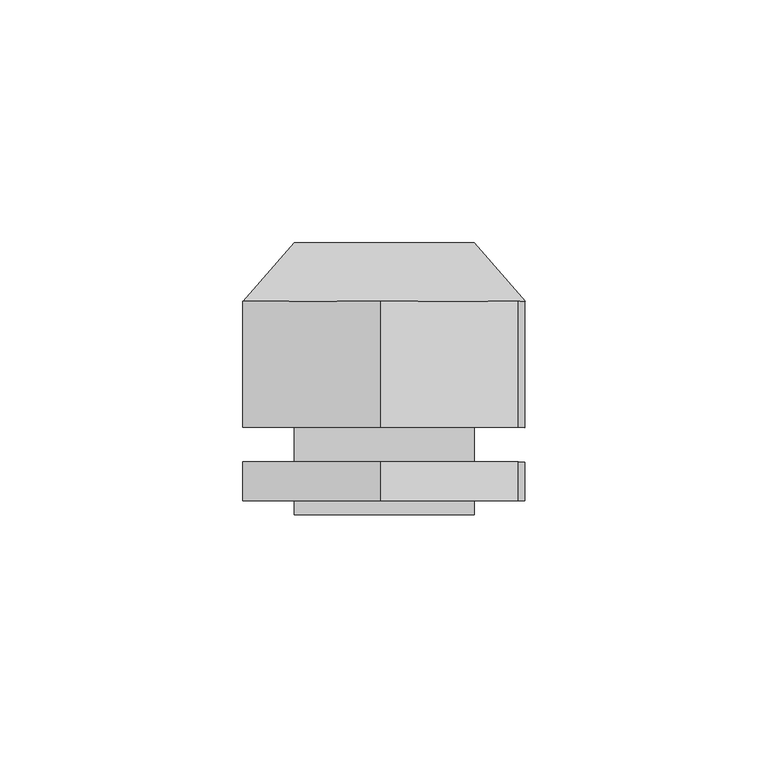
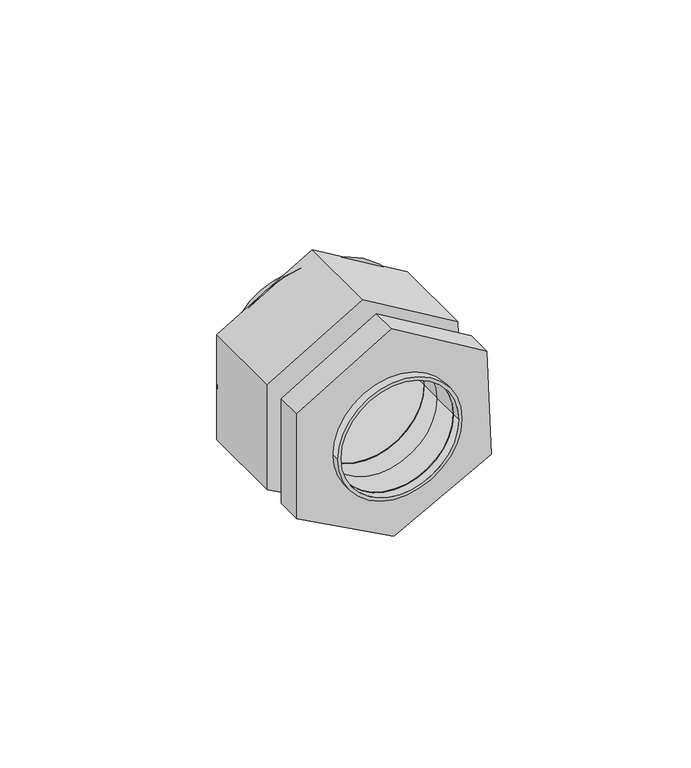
"""IFC4 building model written with IfcOpenShell, lengths in millimetres: cable carrier fitting geometry, Сальник_PGL_D_11-48_IP54 : Сальник PG 29 диаметр проводника 18-25мм IP54."""

from ifc_helpers import new_model, si_unit, point, frame, frame_2d, origin, place, context, project, spatial, polyline, circle_curve, trimmed, segment, composite_curve, outline, extrude, source, transform, mapped, element, save
from ifc_brep_helpers import plane_surface, revolved_surface, advanced_brep


def cable_carrier_fitting_a0507180(model_context):
    return source(origin(), model_context, "Body", "SolidModel", [
        advanced_brep(
        [(-17.4094864, 0.0, 0.0057257), (-17.4094864, -12.0, 0.0057257), (17.5905136, -12.0, 0.0057257), (17.5905136, 0.0, 0.0057257), (-28.9010286, -12.0, 0.0), (29.0989714, -12.0, 0.0), (-18.4010286, 0.0, 0.0), (18.5989714, 0.0, 0.0)],
        [
            (0, 1),
            (1, 2, circle_curve(frame((0.0905136, -12.0, 0.0057257), z_axis=(0.0, -1.0, 0.0), x_axis=(1.0, 0.0, 0.0)), 17.5)),
            (2, 3),
            (3, 0, circle_curve(frame((0.0905136, 0.0, 0.0057257), z_axis=(0.0, 1.0, 0.0), x_axis=(1.0, 0.0, 0.0)), 17.5)),
            (0, 3, circle_curve(frame((0.0905136, 0.0, 0.0057257), z_axis=(0.0, 1.0, 0.0), x_axis=(1.0, 0.0, 0.0)), 17.5)),
            (2, 1, circle_curve(frame((0.0905136, -12.0, 0.0057257), z_axis=(0.0, -1.0, 0.0), x_axis=(1.0, 0.0, 0.0)), 17.5)),
            (4, 5, circle_curve(frame((0.0989714, -12.0, 0.0), z_axis=(0.0, -1.0, 0.0), x_axis=(-1.0, 0.0, 0.0)), 29.0)),
            (5, 4, circle_curve(frame((0.0989714, -12.0, 0.0), z_axis=(0.0, -1.0, 0.0), x_axis=(1.0, 0.0, 0.0)), 29.0)),
            (6, 7, circle_curve(frame((0.0989714, 0.0, 0.0), z_axis=(0.0, 1.0, 0.0), x_axis=(1.0, 0.0, 0.0)), 18.5)),
            (7, 6, circle_curve(frame((0.0989714, 0.0, 0.0), z_axis=(0.0, 1.0, 0.0), x_axis=(-1.0, 0.0, 0.0)), 18.5)),
            (4, 6),
            (7, 5),
        ],
        [
            revolved_surface(polyline([(17.5905136, -12.0, 0.0057257), (17.5905136, 0.0, 0.0057257)]), (0.0905136, 9.180646, 0.0057257), (0.0, -1.0, 0.0)),
            plane_surface(frame((0.0989714, -12.0, 0.0), z_axis=(0.0, -1.0, 0.0), x_axis=(0.0, 0.0, -1.0))),
            plane_surface(frame((0.0989714, 0.0, 0.0), z_axis=(0.0, 1.0, 0.0), x_axis=(0.0, 0.0, -1.0))),
            revolved_surface(polyline([(18.598971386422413, 0.0, 0.0), (29.0989714, -12.0, 0.0)]), (0.0989714, 21.1428571, 0.0), (0.0, -1.0, 0.0)),
            revolved_surface(polyline([(-18.401028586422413, 0.0, 0.0), (-28.9010286, -12.0, 0.0)]), (0.0989714, 21.1428571, 0.0), (0.0, -1.0, 0.0)),
        ],
        [
            (0, [[1, 2, 3, 4]]),
            (0, [[-1, 5, -3, 6]]),
            (1, [[7, 8], [-2, -6]]),
            (2, [[9, 10], [-4, -5]]),
            (3, [[-7, 11, -10, 12]]),
            (4, [[-8, -12, -9, -11]]),
        ],
    ),
        extrude(outline(polyline([(-16.6959179, 29.0), (16.2791324, 27.7170125), (33.167475, -0.6340701), (16.3040821, -29.0), (-16.6959179, -29.0), (-32.4439336, 0.0), (-16.6959179, 29.0)]), holes=[composite_curve([segment(trimmed(circle_curve(frame_2d((0.0057257, 0.0905136)), 17.5), [point((0.0057257, 17.5905136))], [point((0.0057257, -17.4094864))], True, "CARTESIAN"), True, "CONTINUOUS"), segment(trimmed(circle_curve(frame_2d((0.0057257, 0.0905136)), 17.5), [point((0.0057257, -17.4094864))], [point((0.0057257, 17.5905136))], True, "CARTESIAN"), True, "CONTINUOUS")], self_intersect=False)]), frame((0.0, -38.0, 0.0), z_axis=(0.0, 1.0, 0.0), x_axis=(0.0, 0.0, 1.0)), (0.0, 0.0, 1.0), 26.0),
        extrude(outline(polyline([(-16.6959179, 29.0), (16.2791324, 27.7170125), (33.167475, -0.6340701), (16.3040821, -29.0), (-16.6959179, -29.0), (-32.4439336, 0.0), (-16.6959179, 29.0)]), holes=[composite_curve([segment(trimmed(circle_curve(frame_2d((0.0057257, 0.0905136)), 17.5), [point((0.0057257, 17.5905136))], [point((0.0057257, -17.4094864))], True, "CARTESIAN"), True, "CONTINUOUS"), segment(trimmed(circle_curve(frame_2d((0.0057257, 0.0905136)), 17.5), [point((0.0057257, -17.4094864))], [point((0.0057257, 17.5905136))], True, "CARTESIAN"), True, "CONTINUOUS")], self_intersect=False)]), frame((0.0, -53.1018563, 0.0), z_axis=(0.0, 1.0, 0.0), x_axis=(0.0, 0.0, 1.0)), (0.0, 0.0, 1.0), 8.0),
        extrude(outline(composite_curve([segment(trimmed(circle_curve(frame_2d((0.0032191, 0.0900025)), 18.5), [point((0.0032191, -18.4099975))], [point((0.0032191, 18.5900025))], False, "CARTESIAN"), True, "CONTINUOUS"), segment(trimmed(circle_curve(frame_2d((0.0032191, 0.0900025)), 18.5), [point((0.0032191, 18.5900025))], [point((0.0032191, -18.4099975))], False, "CARTESIAN"), True, "CONTINUOUS")], self_intersect=False), holes=[composite_curve([segment(trimmed(circle_curve(frame_2d((0.0057257, 0.0905136)), 17.5), [point((0.0057257, 17.5905136))], [point((0.0057257, -17.4094864))], True, "CARTESIAN"), True, "CONTINUOUS"), segment(trimmed(circle_curve(frame_2d((0.0057257, 0.0905136)), 17.5), [point((0.0057257, -17.4094864))], [point((0.0057257, 17.5905136))], True, "CARTESIAN"), True, "CONTINUOUS")], self_intersect=False)]), frame((0.0, -56.0, 0.0), z_axis=(0.0, 1.0, 0.0), x_axis=(0.0, 0.0, 1.0)), (0.0, 0.0, 1.0), 56.0),
    ])


if __name__ == "__main__":
    model = new_model("IFC4")
    model_context = context("Model", 3, world=origin())
    ifc_project = project(units=[si_unit("LENGTHUNIT", "METRE", prefix="MILLI")], contexts=[model_context])
    site = spatial("IfcSite", under=ifc_project)
    building = spatial("IfcBuilding", under=site)
    placement = place(None, origin())
    cable_carrier_fitting_shape = cable_carrier_fitting_a0507180(model_context)
    element("IfcCableCarrierFitting", 1, ObjectType="Сальник_PGL_D_11-48_IP54 : Сальник PG 29 диаметр проводника 18-25мм IP54", at=placement, inside=building, context=model_context, shape_type="MappedRepresentation", body=[
        mapped(cable_carrier_fitting_shape, transform((0.0, 0.0, 0.0), x_axis=(1.0, 0.0, 0.0), y_axis=(0.0, 1.0, 0.0), z_axis=(0.0, 0.0, 1.0))),
    ])
    save(model, "model.ifc")
